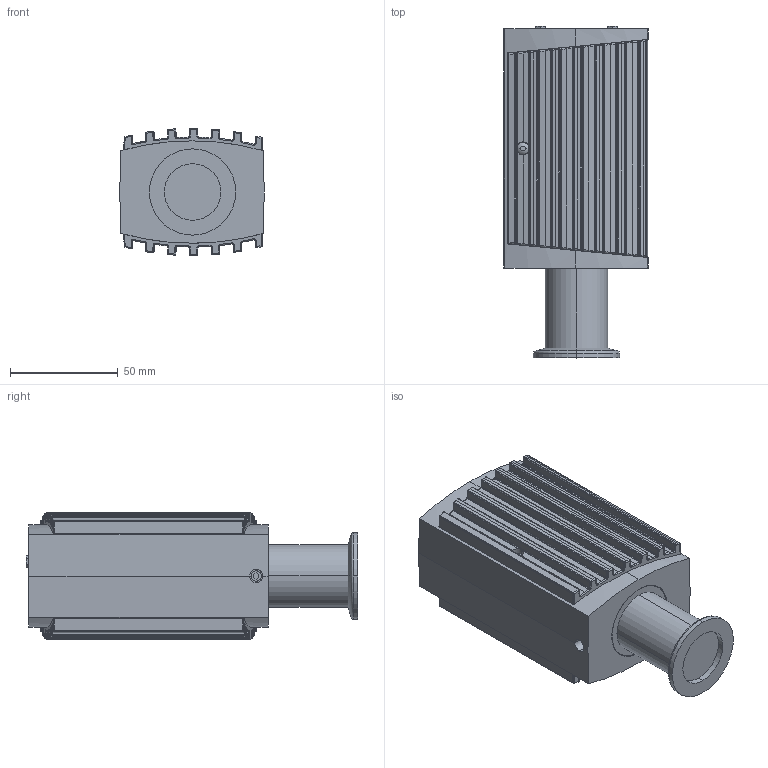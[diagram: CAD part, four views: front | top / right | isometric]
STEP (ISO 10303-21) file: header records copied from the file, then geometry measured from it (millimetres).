
FILE_DESCRIPTION((''),'2;1');
FILE_NAME('U:\Projekte\11741 3D Modelle\Leybold\12091.stp','2004-11-24T15:40:58',('BEM'),(''),'Autodesk Inventor 9','Autodesk Inventor 9','');
FILE_SCHEMA(('AUTOMOTIVE_DESIGN { 1 0 10303 214 1 1 1 1 }'));
Length unit declared in the file: millimetre
Products named in the file (1): 12091
Bounding box: 67 x 153.9 x 59 mm (x, y, z)
Volume: 135703.2 mm3; surface area: 86784.7 mm2
Topology: 1 solids, 1 shells, 1176 faces, 3176 edges, 1987 vertices
Faces by surface type: cylinder 646, plane 334, bspline 116, sphere 60, cone 20
Entity records: 74605 total; most frequent: CARTESIAN_POINT 45949, ORIENTED_EDGE 6280, DIRECTION 5707, EDGE_CURVE 3140, AXIS2_PLACEMENT_3D 2116, VERTEX_POINT 1987, VECTOR 1475, LINE 1475
